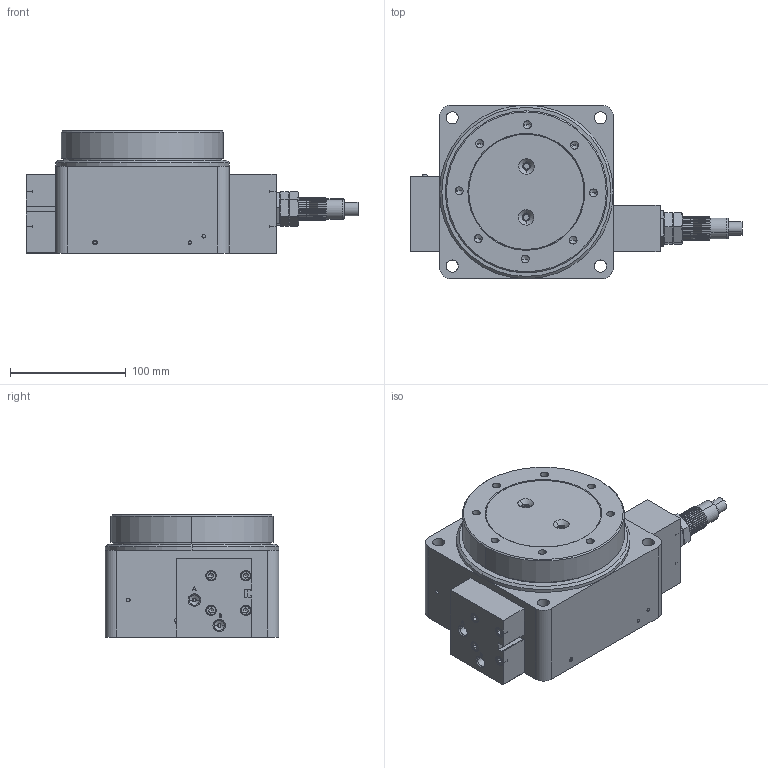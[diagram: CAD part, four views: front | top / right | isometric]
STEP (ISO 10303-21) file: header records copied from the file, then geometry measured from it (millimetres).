
FILE_DESCRIPTION (( 'STEP AP214' ), '1' );
FILE_NAME ('RTIND_S_4-8_WEB.STEP', '2021-09-12T16:23:57', ( '' ), ( '' ), 'SwSTEP 2.0', 'SolidWorks 2021', '' );
FILE_SCHEMA (( 'AUTOMOTIVE_DESIGN' ));
Length unit declared in the file: millimetre
Products named in the file (16): RTIND_S4-8_GOVDE; basic internal retaining ring_am_B27.7M - 3BM1-22; 鈤t_Plaka; EFDYN-EFMA 10-20-6C; KO-32X2; KÝLÝT_PÝSTON_ARK_KAPAK; RTIND_S4-8_TABLA; RTIND_S_4-8_WEB; KÝLÝT_PÝSTONU_ARKA_KAPAK; Piston_kapak1_VER_2; socket set screw cone point_am_B18.3.6M - M4 x 0.7 x 5 Hex Socket Cone Pt. SS --N; HAD_20_15; socket head cap screw_am_B18.3.1M - 5 x 0.8 x 25 Hex SHCS -- 25NHX; K54-18X25X2_1; Piston_kapak2; K69-25X22X4_2
Assembly tree (27 placements, depth 3):
  RTIND_S_4-8_WEB
    RTIND_S4-8_GOVDE
    RTIND_S4-8_TABLA
    鈤t_Plaka
    KÝLÝT_PÝSTONU_ARKA_KAPAK  x2
      KÝLÝT_PÝSTON_ARK_KAPAK
    basic internal retaining ring_am_B27.7M - 3BM1-22  x2
    K54-18X25X2_1
    K69-25X22X4_2
    socket set screw cone point_am_B18.3.6M - M4 x 0.7 x 5 Hex Socket Cone Pt. SS --N  x4
    Piston_kapak1_VER_2
    socket head cap screw_am_B18.3.1M - 5 x 0.8 x 25 Hex SHCS -- 25NHX  x8
    KO-32X2
    Piston_kapak2
    EFDYN-EFMA 10-20-6C
    HAD_20_15
Bounding box: 286.75 x 150 x 105.5 mm (x, y, z)
Volume: 1989133.9 mm3; surface area: 293014.5 mm2
Topology: 26 solids, 26 shells, 1530 faces, 3466 edges, 2078 vertices
Faces by surface type: cylinder 584, plane 467, cone 425, bspline 30, torus 24
Entity records: 40773 total; most frequent: CARTESIAN_POINT 9125, DIRECTION 6488, ORIENTED_EDGE 5722, EDGE_CURVE 2861, AXIS2_PLACEMENT_3D 2550, VERTEX_POINT 1733, EDGE_LOOP 1500, VECTOR 1388
